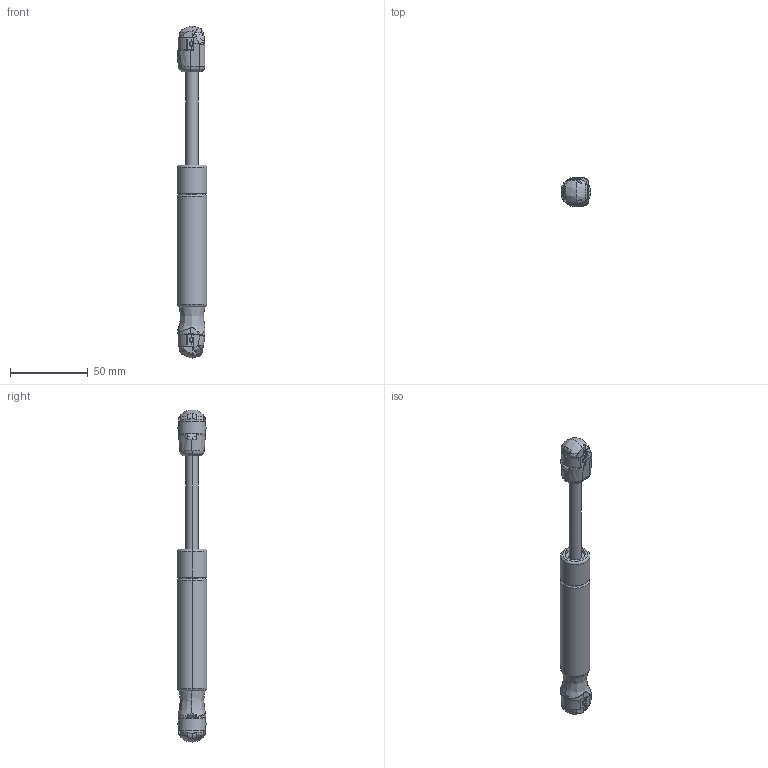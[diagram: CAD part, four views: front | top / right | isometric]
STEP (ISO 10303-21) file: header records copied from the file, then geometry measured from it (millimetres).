
FILE_DESCRIPTION (( 'STEP AP214' ), '1' );
FILE_NAME ('GS08-0200PE10.STEP', '2011-03-23T18:18:57', ( 'user' ), ( '' ), 'SwSTEP 2.0', 'SolidWorks 2011', '' );
FILE_SCHEMA (( 'AUTOMOTIVE_DESIGN' ));
Length unit declared in the file: millimetre
Products named in the file (10): 4098DY_B-SOCKETa; 4098DY_B-SOCKET1-4; 4098DY_B-SOCKET2-4; GS08-0200PE10-NC; GS08-0200PE10-SHAFT; GS08-0200PE10-TUBE; 7175NH_B-SOCKET_FLARED1; 7175NH_B-SOCKET_FLARED1-2; 7175NH_B-SOCKET_FLARED2-2; GS08-0200PE10
Assembly tree (9 placements, depth 3):
  GS08-0200PE10
    4098DY_B-SOCKETa
      4098DY_B-SOCKET2-4
      4098DY_B-SOCKET1-4
    7175NH_B-SOCKET_FLARED1
      7175NH_B-SOCKET_FLARED1-2
      7175NH_B-SOCKET_FLARED2-2
    GS08-0200PE10-NC
      GS08-0200PE10-SHAFT
      GS08-0200PE10-TUBE
Bounding box: 19.05 x 19 x 213.5 mm (x, y, z)
Volume: 35635.1 mm3; surface area: 16154 mm2
Topology: 6 solids, 6 shells, 403 faces, 1085 edges, 683 vertices
Faces by surface type: bspline 140, plane 119, cylinder 118, cone 18, torus 8
Entity records: 18249 total; most frequent: CARTESIAN_POINT 7604, ORIENTED_EDGE 2152, DIRECTION 1574, EDGE_CURVE 1076, VERTEX_POINT 682, AXIS2_PLACEMENT_3D 596, EDGE_LOOP 408, ADVANCED_FACE 403
